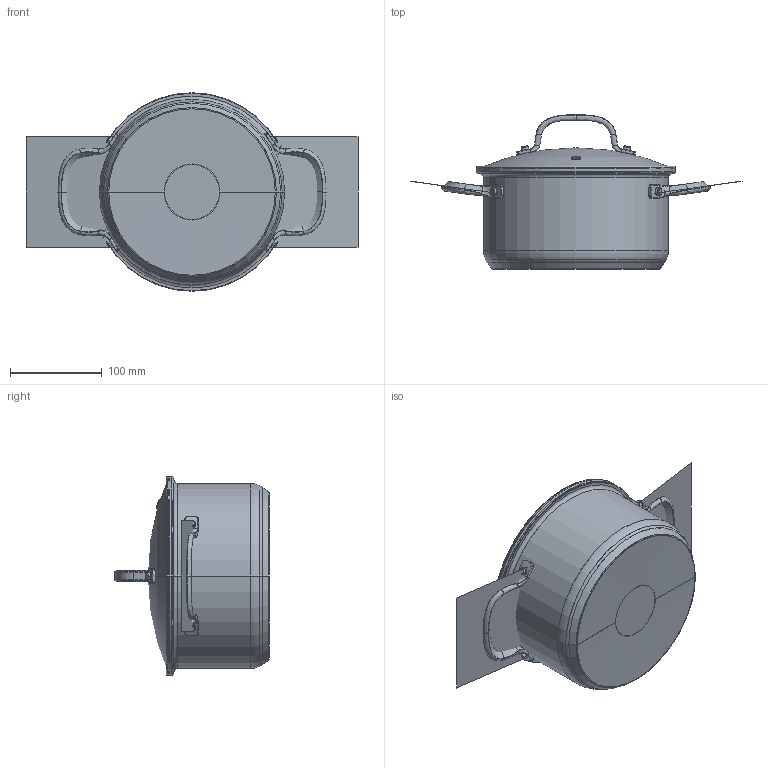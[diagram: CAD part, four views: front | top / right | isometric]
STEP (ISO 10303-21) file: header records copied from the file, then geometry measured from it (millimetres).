
FILE_DESCRIPTION((''),'2;1');
FILE_NAME('200_ASM','2024-03-08T11:21:03',('3'),(''),'CREO PARAMETRIC BY PTC INC, 2021164','CREO PARAMETRIC BY PTC INC, 2021164','');
FILE_SCHEMA(('CONFIG_CONTROL_DESIGN'));
Length unit declared in the file: millimetre
Products named in the file (4): LF-B-200; 00; 200_ASM
Assembly tree (4 placements, depth 2):
  200_ASM
    LF-B-200
    00
    00  x2
Bounding box: 361.6 x 168.11 x 216.2 mm (x, y, z)
Volume: 292744.4 mm3; surface area: 421213 mm2
Topology: 14 solids, 18 shells, 423 faces, 898 edges, 490 vertices
Faces by surface type: bspline 166, torus 94, cylinder 80, sphere 36, plane 25, cone 18, extrusion 4
Entity records: 14666 total; most frequent: CARTESIAN_POINT 8562, DIRECTION 1252, ORIENTED_EDGE 1252, EDGE_CURVE 630, AXIS2_PLACEMENT_3D 573, CIRCLE 360, VERTEX_POINT 348, EDGE_LOOP 322
